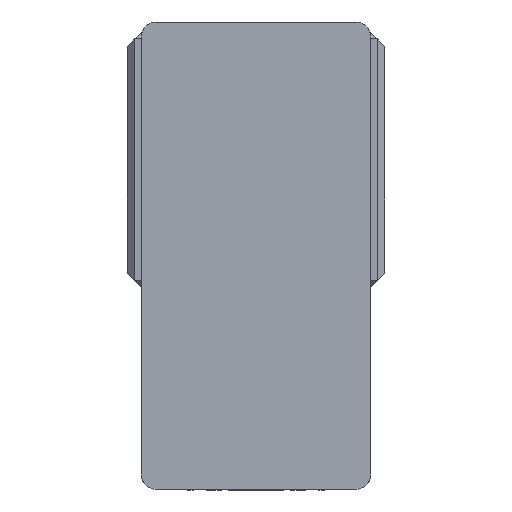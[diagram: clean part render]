
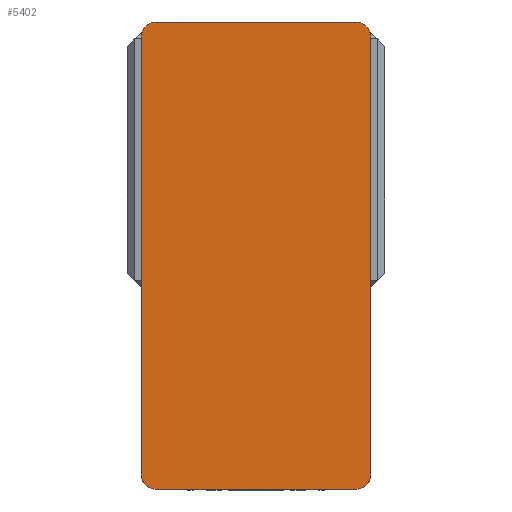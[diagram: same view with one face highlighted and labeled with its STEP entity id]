
A CAD part, left-side view. The second image highlights one B-rep face of the part: STEP entity #5402.
In plain terms, the highlighted planar face has unit normal (-1, 0, 0) as drawn and (0, 0, 1) by its records, which use the part's own axes.
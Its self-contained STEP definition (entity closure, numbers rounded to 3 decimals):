
#34 = EDGE_CURVE ( 'NONE', #4869, #11149, #948, .T. ) ;
#111 = EDGE_CURVE ( 'NONE', #11149, #2388, #4337, .T. ) ;
#116 = VECTOR ( 'NONE', #5221, 1000. ) ;
#167 = EDGE_CURVE ( 'NONE', #8430, #11167, #8362, .T. ) ;
#182 = EDGE_CURVE ( 'NONE', #10223, #8389, #3783, .T. ) ;
#219 = EDGE_CURVE ( 'NONE', #7959, #4869, #7824, .T. ) ;
#299 = DIRECTION ( 'NONE',  ( 1., 0., 0. ) ) ;
#367 = VECTOR ( 'NONE', #2136, 1000. ) ;
#458 = EDGE_LOOP ( 'NONE', ( #11104, #2644, #508, #3498, #1388, #6914, #10028, #10833 ) ) ;
#508 = ORIENTED_EDGE ( 'NONE', *, *, #10988, .T. ) ;
#835 = VECTOR ( 'NONE', #4867, 1000. ) ;
#948 = LINE ( 'NONE', #10265, #367 ) ;
#1388 = ORIENTED_EDGE ( 'NONE', *, *, #11083, .T. ) ;
#1429 = LINE ( 'NONE', #10917, #835 ) ;
#2136 = DIRECTION ( 'NONE',  ( 1., 0., 0. ) ) ;
#2272 = LINE ( 'NONE', #5664, #6695 ) ;
#2304 = CARTESIAN_POINT ( 'NONE',  ( 65., -152.5, 105. ) ) ;
#2388 = VERTEX_POINT ( 'NONE', #2454 ) ;
#2454 = CARTESIAN_POINT ( 'NONE',  ( 75., -142.5, 105. ) ) ;
#2644 = ORIENTED_EDGE ( 'NONE', *, *, #111, .T. ) ;
#2678 = CARTESIAN_POINT ( 'NONE',  ( -65., -152.5, 105. ) ) ;
#2850 = CARTESIAN_POINT ( 'NONE',  ( -75., -142.5, 105. ) ) ;
#2872 = AXIS2_PLACEMENT_3D ( 'NONE', #8964, #9903, #4716 ) ;
#3498 = ORIENTED_EDGE ( 'NONE', *, *, #167, .T. ) ;
#3783 = CIRCLE ( 'NONE', #10336, 10. ) ;
#3902 = DIRECTION ( 'NONE',  ( 0., 0., 1. ) ) ;
#4109 = CARTESIAN_POINT ( 'NONE',  ( 65., 152.5, 105. ) ) ;
#4335 = CARTESIAN_POINT ( 'NONE',  ( -75., 152.5, 105. ) ) ;
#4337 = CIRCLE ( 'NONE', #10512, 10. ) ;
#4556 = CARTESIAN_POINT ( 'NONE',  ( 75., 142.5, 105. ) ) ;
#4716 = DIRECTION ( 'NONE',  ( 1., 0., 0. ) ) ;
#4867 = DIRECTION ( 'NONE',  ( -1., 0., 0. ) ) ;
#4869 = VERTEX_POINT ( 'NONE', #2678 ) ;
#5195 = LINE ( 'NONE', #4335, #116 ) ;
#5221 = DIRECTION ( 'NONE',  ( 0., -1., 0. ) ) ;
#5402 = ADVANCED_FACE ( 'NONE', ( #7801 ), #9002, .T. ) ;
#5664 = CARTESIAN_POINT ( 'NONE',  ( 75., 152.5, 105. ) ) ;
#5867 = CARTESIAN_POINT ( 'NONE',  ( -65., 152.5, 105. ) ) ;
#6695 = VECTOR ( 'NONE', #8160, 1000. ) ;
#6839 = DIRECTION ( 'NONE',  ( 0., 0., 1. ) ) ;
#6914 = ORIENTED_EDGE ( 'NONE', *, *, #182, .T. ) ;
#7465 = CARTESIAN_POINT ( 'NONE',  ( -65., -142.5, 105. ) ) ;
#7801 = FACE_OUTER_BOUND ( 'NONE', #458, .T. ) ;
#7824 = CIRCLE ( 'NONE', #9709, 10. ) ;
#7856 = CARTESIAN_POINT ( 'NONE',  ( 65., -142.5, 105. ) ) ;
#7959 = VERTEX_POINT ( 'NONE', #2850 ) ;
#8160 = DIRECTION ( 'NONE',  ( 0., 1., 0. ) ) ;
#8339 = CARTESIAN_POINT ( 'NONE',  ( -65., 142.5, 105. ) ) ;
#8362 = CIRCLE ( 'NONE', #9553, 10. ) ;
#8389 = VERTEX_POINT ( 'NONE', #11381 ) ;
#8430 = VERTEX_POINT ( 'NONE', #4556 ) ;
#8964 = CARTESIAN_POINT ( 'NONE',  ( 0., 0., 105. ) ) ;
#9002 = PLANE ( 'NONE',  #2872 ) ;
#9071 = CARTESIAN_POINT ( 'NONE',  ( 65., 142.5, 105. ) ) ;
#9222 = DIRECTION ( 'NONE',  ( 1., 0., 0. ) ) ;
#9265 = DIRECTION ( 'NONE',  ( 0., 0., 1. ) ) ;
#9346 = DIRECTION ( 'NONE',  ( 1., 0., 0. ) ) ;
#9553 = AXIS2_PLACEMENT_3D ( 'NONE', #9071, #9265, #9222 ) ;
#9709 = AXIS2_PLACEMENT_3D ( 'NONE', #7465, #11297, #299 ) ;
#9903 = DIRECTION ( 'NONE',  ( 0., 0., 1. ) ) ;
#9926 = DIRECTION ( 'NONE',  ( 1., 0., 0. ) ) ;
#10028 = ORIENTED_EDGE ( 'NONE', *, *, #11320, .T. ) ;
#10223 = VERTEX_POINT ( 'NONE', #5867 ) ;
#10265 = CARTESIAN_POINT ( 'NONE',  ( -75., -152.5, 105. ) ) ;
#10336 = AXIS2_PLACEMENT_3D ( 'NONE', #8339, #3902, #9926 ) ;
#10512 = AXIS2_PLACEMENT_3D ( 'NONE', #7856, #6839, #9346 ) ;
#10833 = ORIENTED_EDGE ( 'NONE', *, *, #219, .T. ) ;
#10917 = CARTESIAN_POINT ( 'NONE',  ( -75., 152.5, 105. ) ) ;
#10988 = EDGE_CURVE ( 'NONE', #2388, #8430, #2272, .T. ) ;
#11083 = EDGE_CURVE ( 'NONE', #11167, #10223, #1429, .T. ) ;
#11104 = ORIENTED_EDGE ( 'NONE', *, *, #34, .T. ) ;
#11149 = VERTEX_POINT ( 'NONE', #2304 ) ;
#11167 = VERTEX_POINT ( 'NONE', #4109 ) ;
#11297 = DIRECTION ( 'NONE',  ( 0., 0., 1. ) ) ;
#11320 = EDGE_CURVE ( 'NONE', #8389, #7959, #5195, .T. ) ;
#11381 = CARTESIAN_POINT ( 'NONE',  ( -75., 142.5, 105. ) ) ;
